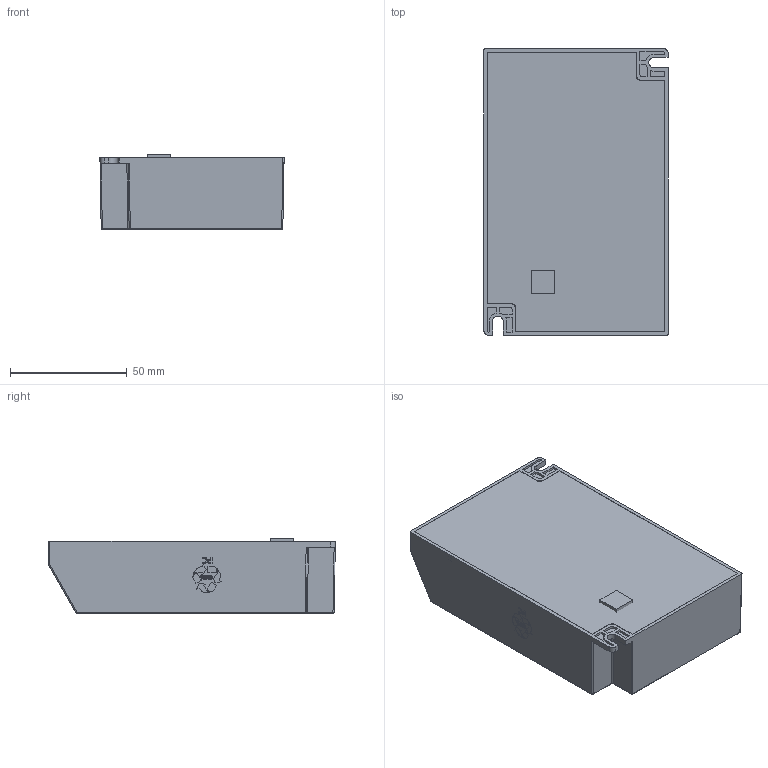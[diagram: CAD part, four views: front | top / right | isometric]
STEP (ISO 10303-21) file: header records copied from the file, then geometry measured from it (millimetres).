
FILE_DESCRIPTION(/* description */ (''),/* implementation_level */ '2;1');
FILE_NAME(/* name */ 'D4i C123.stp',/* time_stamp */ '2024-11-25T09:27:29+08:00',/* author */ ('621233586'),/* organization */ (''),/* preprocessor_version */ 'ST-DEVELOPER v19.2',/* originating_system */ 'Autodesk Inventor 2023',/* authorisation */ '');
FILE_SCHEMA (('CONFIG_CONTROL_DESIGN'));
Products named in the file (17): Product Assy; New design cover-E; New design housing-E; 4422-962-73353; DesignRootModel; Submodel-PartNo_part_simplified_barcode_057x057_silk_cl5_1; Submodel-Y:LED_Drivers_New00043925_Digital_D4i_outdoorMBMB_4422962733
43_20240320BLayout3DInput_SBARCODE_3D_057x057_V1_19-01-2013_0.05.xtd; BARCODE_3D_057x057_V1_19-01-2013_0.05; Submodel-442240998181_part_simplified_con_wago250_fr_03p-k_300cl_m_1; Submodel-Y:LED_Drivers_New00043925_Digital_D4i_outdoorMBMB_4422962733
43_20240320BLayout3DInput_SCONNECTOR_ODD_WAGO250-3P-SPACER_NOP3-4_14-1
1-17_13.3.xtd; CONNECTOR_ODD_WAGO250-3P-SPACER_NOP3-4_14-11-17_13.3; Submodel-828800153331_part_simplified_con_wago250_fr_05p-h_m_1; Submodel-Y:LED_Drivers_New00043925_Digital_D4i_outdoorMBMB_4422962733
43_20240320BLayout3DInput_SCONNECTOR_ODD_WAGO250-5P_V2_04-03-24_13.3.x
td; CONNECTOR_ODD_WAGO250-5P_V2_04-03-24_13.3; uid__8115105; 10x10x6; 12X12X2
Assembly tree (16 placements, depth 6):
  Product Assy
    New design cover-E
    New design housing-E
    4422-962-73353
      DesignRootModel
        Submodel-PartNo_part_simplified_barcode_057x057_silk_cl5_1
          Submodel-Y:LED_Drivers_New00043925_Digital_D4i_outdoorMBMB_4422962733
43_20240320BLayout3DInput_SBARCODE_3D_057x057_V1_19-01-2013_0.05.xtd
            BARCODE_3D_057x057_V1_19-01-2013_0.05
        Submodel-442240998181_part_simplified_con_wago250_fr_03p-k_300cl_m_1
          Submodel-Y:LED_Drivers_New00043925_Digital_D4i_outdoorMBMB_4422962733
43_20240320BLayout3DInput_SCONNECTOR_ODD_WAGO250-3P-SPACER_NOP3-4_14-1
1-17_13.3.xtd
            CONNECTOR_ODD_WAGO250-3P-SPACER_NOP3-4_14-11-17_13.3
        Submodel-828800153331_part_simplified_con_wago250_fr_05p-h_m_1
          Submodel-Y:LED_Drivers_New00043925_Digital_D4i_outdoorMBMB_4422962733
43_20240320BLayout3DInput_SCONNECTOR_ODD_WAGO250-5P_V2_04-03-24_13.3.x
td
            CONNECTOR_ODD_WAGO250-5P_V2_04-03-24_13.3
        uid__8115105
    10x10x6
    12X12X2
Bounding box: 79 x 123 x 32.4 mm (x, y, z)
Volume: 63602.3 mm3; surface area: 89015.4 mm2
Topology: 51 solids, 72 shells, 2482 faces, 6633 edges, 4379 vertices
Faces by surface type: plane 1636, cylinder 475, bspline 310, cone 37, torus 18, sphere 6
Full cylindrical faces by diameter (mm): 0.75 x10, 0.8 x6, 0.9 x24, 0.95 x2, 1 x35, 1.05 x10, 1.1 x37, 1.2 x4, 1.3 x19, 3 x3
Entity records: 82041 total; most frequent: CARTESIAN_POINT 19624, ORIENTED_EDGE 13204, DIRECTION 11459, EDGE_CURVE 6602, LINE 4929, VECTOR 4929, VERTEX_POINT 4379, AXIS2_PLACEMENT_3D 3265
